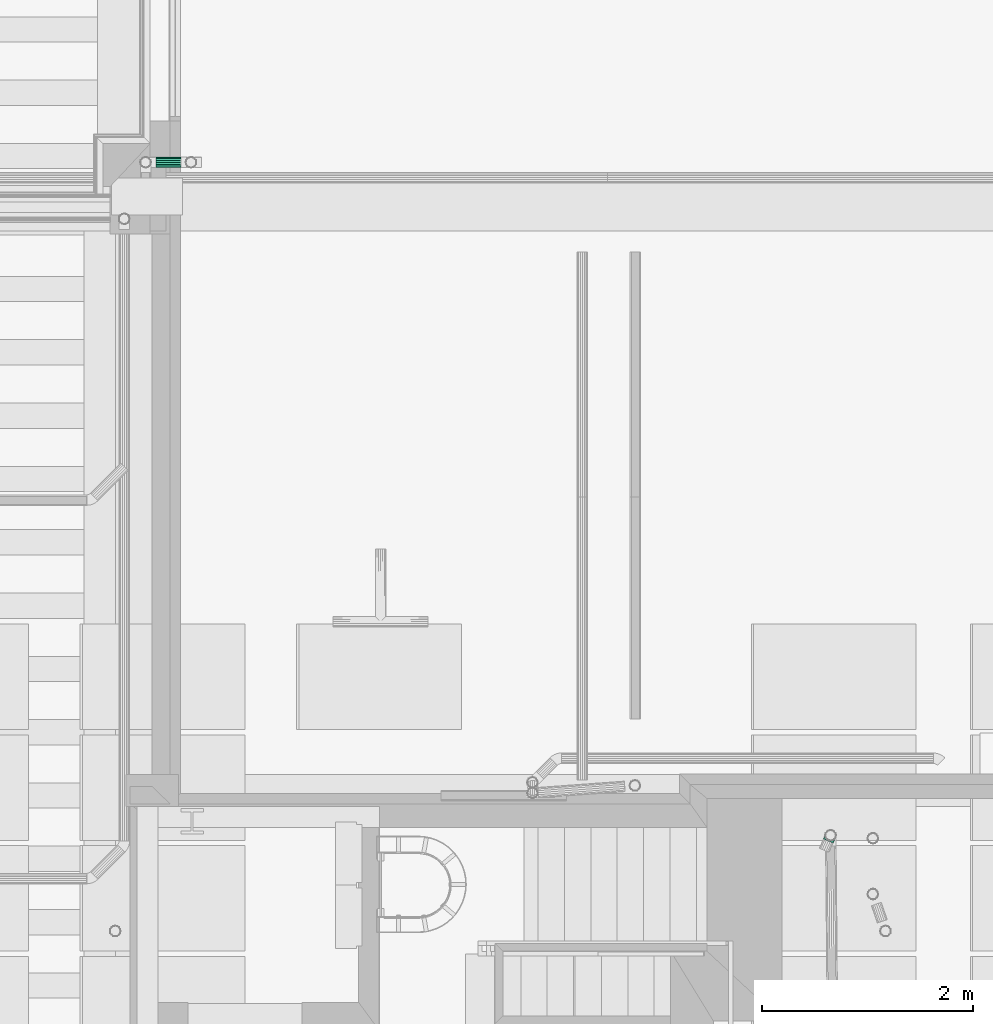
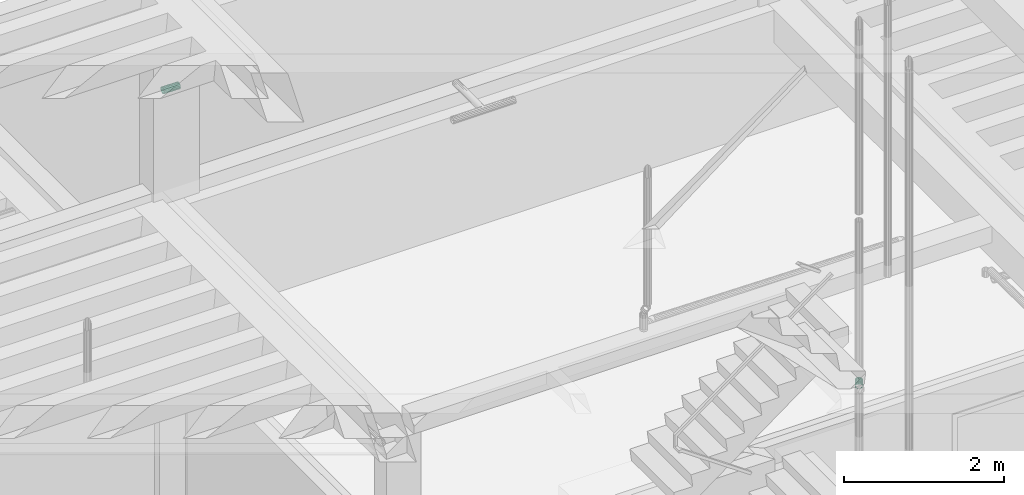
# One storey, part 89 of 108: 1 flow fitting, 1 flow segment.
"""IFC2X3 building model written with IfcOpenShell, lengths in metres."""

from ifc_helpers import new_model, entity, si_unit, converted_unit, derived_unit, money_unit, direction, frame, origin_with_axes, place, context, subcontext, project, spatial, open_shell, faceted_brep, surface_model, material, type_object, element, save


model = new_model("IFC2X3")

# Units and contexts
model_context = context("Model", 3, precision=1e-05, world=origin_with_axes(), true_north=direction((0.0, 1.0)))
body_context = subcontext(model_context, "Body", "Model", "MODEL_VIEW", scale=1.0)
ifc_project = project(units=[si_unit("LENGTHUNIT", "METRE"), si_unit("AREAUNIT", "SQUARE_METRE"), si_unit("VOLUMEUNIT", "CUBIC_METRE"), si_unit("ABSORBEDDOSEUNIT", "GRAY"), si_unit("AMOUNTOFSUBSTANCEUNIT", "MOLE"), si_unit("DOSEEQUIVALENTUNIT", "SIEVERT"), si_unit("ELECTRICCAPACITANCEUNIT", "FARAD"), si_unit("ELECTRICCHARGEUNIT", "COULOMB"), si_unit("ELECTRICCONDUCTANCEUNIT", "SIEMENS"), si_unit("ELECTRICCURRENTUNIT", "AMPERE"), si_unit("ELECTRICRESISTANCEUNIT", "OHM"), si_unit("ELECTRICVOLTAGEUNIT", "VOLT"), si_unit("ENERGYUNIT", "JOULE"), si_unit("FORCEUNIT", "NEWTON"), si_unit("FREQUENCYUNIT", "HERTZ"), si_unit("ILLUMINANCEUNIT", "LUX"), si_unit("INDUCTANCEUNIT", "HENRY"), si_unit("LUMINOUSFLUXUNIT", "LUMEN"), si_unit("LUMINOUSINTENSITYUNIT", "CANDELA"), si_unit("MAGNETICFLUXDENSITYUNIT", "TESLA"), si_unit("MAGNETICFLUXUNIT", "WEBER"), si_unit("MASSUNIT", "GRAM"), converted_unit("PLANEANGLEUNIT", "degree", entity("IfcReal", 0.0174532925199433), si_unit("PLANEANGLEUNIT", "RADIAN"), dimensions=[0, 0, 0, 0, 0, 0, 0]), si_unit("POWERUNIT", "WATT"), si_unit("PRESSUREUNIT", "PASCAL"), si_unit("RADIOACTIVITYUNIT", "BECQUEREL"), si_unit("SOLIDANGLEUNIT", "STERADIAN"), si_unit("THERMODYNAMICTEMPERATUREUNIT", "KELVIN"), si_unit("TIMEUNIT", "SECOND"), derived_unit("ACCELERATIONUNIT", [(si_unit("LENGTHUNIT", "METRE"), 1), (si_unit("TIMEUNIT", "SECOND"), -2)]), derived_unit("ANGULARVELOCITYUNIT", [(converted_unit("PLANEANGLEUNIT", "degree", entity("IfcReal", 0.0174532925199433), si_unit("PLANEANGLEUNIT", "RADIAN"), dimensions=[0, 0, 0, 0, 0, 0, 0]), 1), (si_unit("TIMEUNIT", "SECOND"), -1)]), derived_unit("CURVATUREUNIT", [(converted_unit("PLANEANGLEUNIT", "degree", entity("IfcReal", 0.0174532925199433), si_unit("PLANEANGLEUNIT", "RADIAN"), dimensions=[0, 0, 0, 0, 0, 0, 0]), 1), (si_unit("LENGTHUNIT", "METRE"), -1)]), derived_unit("DYNAMICVISCOSITYUNIT", [(si_unit("PRESSUREUNIT", "PASCAL"), 1), (si_unit("TIMEUNIT", "SECOND"), 1)]), derived_unit("HEATFLUXDENSITYUNIT", [(si_unit("POWERUNIT", "WATT"), 1), (si_unit("LENGTHUNIT", "METRE"), -2)]), derived_unit("HEATINGVALUEUNIT", [(si_unit("ENERGYUNIT", "JOULE"), 1), (si_unit("MASSUNIT", "GRAM"), -1)]), derived_unit("INTEGERCOUNTRATEUNIT", [(si_unit("TIMEUNIT", "SECOND"), -1)]), derived_unit("IONCONCENTRATIONUNIT", [(si_unit("MASSUNIT", "GRAM"), 1), (si_unit("VOLUMEUNIT", "CUBIC_METRE"), -1)]), derived_unit("ISOTHERMALMOISTURECAPACITYUNIT", [(si_unit("VOLUMEUNIT", "CUBIC_METRE"), 1), (si_unit("MASSUNIT", "GRAM"), -1)]), derived_unit("KINEMATICVISCOSITYUNIT", [(si_unit("AREAUNIT", "SQUARE_METRE"), 1), (si_unit("TIMEUNIT", "SECOND"), -1)]), derived_unit("LINEARFORCEUNIT", [(si_unit("FORCEUNIT", "NEWTON"), 1), (si_unit("LENGTHUNIT", "METRE"), -1)]), derived_unit("LINEARMOMENTUNIT", [(si_unit("FORCEUNIT", "NEWTON"), 1), (si_unit("LENGTHUNIT", "METRE"), -1)]), derived_unit("LINEARSTIFFNESSUNIT", [(si_unit("FORCEUNIT", "NEWTON"), 1), (si_unit("LENGTHUNIT", "METRE"), -1)]), derived_unit("LINEARVELOCITYUNIT", [(si_unit("LENGTHUNIT", "METRE"), 1), (si_unit("TIMEUNIT", "SECOND"), -1)]), derived_unit("LUMINOUSINTENSITYDISTRIBUTIONUNIT", [(si_unit("LUMINOUSINTENSITYUNIT", "CANDELA"), 1), (si_unit("LUMINOUSFLUXUNIT", "LUMEN"), -1)]), derived_unit("MASSDENSITYUNIT", [(si_unit("MASSUNIT", "GRAM"), 1), (si_unit("VOLUMEUNIT", "CUBIC_METRE"), -1)]), derived_unit("MASSFLOWRATEUNIT", [(si_unit("MASSUNIT", "GRAM"), 1), (si_unit("TIMEUNIT", "SECOND"), -1)]), derived_unit("MASSPERLENGTHUNIT", [(si_unit("MASSUNIT", "GRAM"), 1), (si_unit("LENGTHUNIT", "METRE"), -1)]), derived_unit("MODULUSOFELASTICITYUNIT", [(si_unit("FORCEUNIT", "NEWTON"), 1), (si_unit("AREAUNIT", "SQUARE_METRE"), -1)]), derived_unit("MODULUSOFLINEARSUBGRADEREACTIONUNIT", [(si_unit("FORCEUNIT", "NEWTON"), 1), (si_unit("LENGTHUNIT", "METRE"), -2)]), derived_unit("MODULUSOFROTATIONALSUBGRADEREACTIONUNIT", [(si_unit("FORCEUNIT", "NEWTON"), 1), (si_unit("LENGTHUNIT", "METRE"), 1)]), derived_unit("MODULUSOFSUBGRADEREACTIONUNIT", [(si_unit("FORCEUNIT", "NEWTON"), 1), (si_unit("VOLUMEUNIT", "CUBIC_METRE"), -1)]), derived_unit("MOISTUREDIFFUSIVITYUNIT", [(si_unit("VOLUMEUNIT", "CUBIC_METRE"), 1), (si_unit("TIMEUNIT", "SECOND"), -1)]), derived_unit("MOLECULARWEIGHTUNIT", [(si_unit("MASSUNIT", "GRAM"), 1), (si_unit("AMOUNTOFSUBSTANCEUNIT", "MOLE"), -1)]), derived_unit("PLANARFORCEUNIT", [(si_unit("FORCEUNIT", "NEWTON"), 1), (si_unit("LENGTHUNIT", "METRE"), -2)]), derived_unit("ROTATIONALFREQUENCYUNIT", [(si_unit("TIMEUNIT", "SECOND"), -1)]), derived_unit("ROTATIONALMASSUNIT", [(si_unit("MASSUNIT", "GRAM"), 1), (si_unit("LENGTHUNIT", "METRE"), 2)]), derived_unit("ROTATIONALSTIFFNESSUNIT", [(si_unit("FORCEUNIT", "NEWTON"), 1), (si_unit("LENGTHUNIT", "METRE"), 1), (converted_unit("PLANEANGLEUNIT", "degree", entity("IfcReal", 0.0174532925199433), si_unit("PLANEANGLEUNIT", "RADIAN"), dimensions=[0, 0, 0, 0, 0, 0, 0]), -1)]), derived_unit("SECTIONAREAINTEGRALUNIT", [(si_unit("LENGTHUNIT", "METRE"), 5)]), derived_unit("SECTIONMODULUSUNIT", [(si_unit("LENGTHUNIT", "METRE"), 3)]), derived_unit("SHEARMODULUSUNIT", [(si_unit("FORCEUNIT", "NEWTON"), 1), (si_unit("AREAUNIT", "SQUARE_METRE"), -1)]), derived_unit("SOUNDPOWERUNIT", [(si_unit("ENERGYUNIT", "JOULE"), 1), (si_unit("TIMEUNIT", "SECOND"), -1)]), derived_unit("SPECIFICHEATCAPACITYUNIT", [(si_unit("FORCEUNIT", "NEWTON"), 1), (si_unit("MASSUNIT", "GRAM"), -1), (si_unit("THERMODYNAMICTEMPERATUREUNIT", "KELVIN"), -1)]), derived_unit("TEMPERATUREGRADIENTUNIT", [(si_unit("THERMODYNAMICTEMPERATUREUNIT", "KELVIN"), 1), (si_unit("LENGTHUNIT", "METRE"), -1)]), derived_unit("THERMALADMITTANCEUNIT", [(si_unit("POWERUNIT", "WATT"), 1), (si_unit("AREAUNIT", "SQUARE_METRE"), -1), (si_unit("THERMODYNAMICTEMPERATUREUNIT", "KELVIN"), -1)]), derived_unit("THERMALCONDUCTANCEUNIT", [(si_unit("POWERUNIT", "WATT"), 1), (si_unit("LENGTHUNIT", "METRE"), -1), (si_unit("THERMODYNAMICTEMPERATUREUNIT", "KELVIN"), -1)]), derived_unit("THERMALEXPANSIONCOEFFICIENTUNIT", [(si_unit("THERMODYNAMICTEMPERATUREUNIT", "KELVIN"), -1)]), derived_unit("THERMALRESISTANCEUNIT", [(si_unit("AREAUNIT", "SQUARE_METRE"), 1), (si_unit("POWERUNIT", "WATT"), -1)]), derived_unit("THERMALTRANSMITTANCEUNIT", [(si_unit("POWERUNIT", "WATT"), 1), (si_unit("AREAUNIT", "SQUARE_METRE"), -1), (si_unit("THERMODYNAMICTEMPERATUREUNIT", "KELVIN"), -1)]), derived_unit("TORQUEUNIT", [(si_unit("FORCEUNIT", "NEWTON"), 1), (si_unit("LENGTHUNIT", "METRE"), 1)]), derived_unit("VAPORPERMEABILITYUNIT", [(si_unit("MASSUNIT", "GRAM"), 1), (si_unit("TIMEUNIT", "SECOND"), -1)]), derived_unit("VOLUMETRICFLOWRATEUNIT", [(si_unit("VOLUMEUNIT", "CUBIC_METRE"), 1), (si_unit("TIMEUNIT", "SECOND"), -1)]), derived_unit("WARPINGCONSTANTUNIT", [(si_unit("LENGTHUNIT", "METRE"), 6)]), derived_unit("WARPINGMOMENTUNIT", [(si_unit("FORCEUNIT", "NEWTON"), 1), (si_unit("LENGTHUNIT", "METRE"), 2)]), money_unit("GBP")], contexts=[model_context])

# Site, building, storey
site_placement = place(None, origin_with_axes())
site = spatial("IfcSite", under=ifc_project, at=site_placement, Name="Site", CompositionType="ELEMENT")
building_placement = place(site_placement, origin_with_axes())
building = spatial("IfcBuilding", under=site, at=building_placement, Name="Building01", CompositionType="ELEMENT")
storey_placement = place(building_placement, origin_with_axes())
storey = spatial("IfcBuildingStorey", under=building, at=storey_placement, Name="GF", CompositionType="ELEMENT", Elevation=0.0)

# Flow segment
ifc_material = material(Name="M_BSUK_ColdWater")
pipe_segment_type = type_object("IfcPipeSegmentType", Name="M-BmpStraightpipe-DefaultPipe", PredefinedType="RIGIDSEGMENT")
flow_segment_placement = place(storey_placement, frame((9.210744, 14.95, 6.24673), z_axis=(0.0, 1.0, 0.0), x_axis=(0.99980004, 0.0, -0.01999682)))
element("IfcFlowSegment", 1, at=flow_segment_placement, inside=storey, type_object=pipe_segment_type, material=ifc_material, Name="M-BmpStraightpipe-DefaultPipe", ObjectType="M-BmpStraightpipe-DefaultPipe", context=body_context, shape_type="Brep", body=[
    faceted_brep([(0.234392, 0.0, -0.05), (0.0, 0.0, -0.05), (0.0, 0.019134, -0.046194), (0.234392, 0.019134, -0.046194), (0.0, 0.035355, -0.035355), (0.234392, 0.035355, -0.035355), (0.0, 0.046194, -0.019134), (0.234392, 0.046194, -0.019134), (0.0, 0.05, 0.0), (0.234392, 0.05, 0.0), (0.0, 0.046194, 0.019134), (0.234392, 0.046194, 0.019134), (0.0, 0.035355, 0.035355), (0.234392, 0.035355, 0.035355), (0.0, 0.019134, 0.046194), (0.234392, 0.019134, 0.046194), (0.0, 0.0, 0.05), (0.234392, 0.0, 0.05), (0.0, -0.019134, 0.046194), (0.234392, -0.019134, 0.046194), (0.0, -0.035355, 0.035355), (0.234392, -0.035355, 0.035355), (0.0, -0.046194, 0.019134), (0.234392, -0.046194, 0.019134), (0.0, -0.05, 0.0), (0.234392, -0.05, 0.0), (0.0, -0.046194, -0.019134), (0.234392, -0.046194, -0.019134), (0.0, -0.035355, -0.035355), (0.234392, -0.035355, -0.035355), (0.0, -0.019134, -0.046194), (0.234392, -0.019134, -0.046194)], [[[0, 1, 2, 3]], [[3, 2, 4, 5]], [[5, 4, 6, 7]], [[7, 6, 8, 9]], [[9, 8, 10, 11]], [[11, 10, 12, 13]], [[13, 12, 14, 15]], [[15, 14, 16, 17]], [[17, 16, 18, 19]], [[19, 18, 20, 21]], [[21, 20, 22, 23]], [[23, 22, 24, 25]], [[25, 24, 26, 27]], [[27, 26, 28, 29]], [[29, 28, 30, 31]], [[31, 30, 1, 0]]]),
])

# Space
space_placement = place(storey_placement, frame((9.419099, 6.725761, 0.0), z_axis=(0.0, 0.0, 1.0), x_axis=(0.0, -1.0, 0.0)))
space = spatial("IfcSpace", under=storey, at=space_placement, Name="ENTRANCE", CompositionType="ELEMENT", InteriorOrExteriorSpace="NOTDEFINED")

# Flow fitting
pipe_fitting_type = type_object("IfcPipeFittingType", Name="M-BmpTee-DefaultTee", PredefinedType="JUNCTION")
flow_fitting_placement = place(storey_placement, frame((15.604265, 8.57241, 3.349919), z_axis=(0.39563745, 0.91840678, 0.0), x_axis=(0.0, 0.0, 1.0)))
element("IfcFlowFitting", 2, at=flow_fitting_placement, inside=space, type_object=pipe_fitting_type, material=ifc_material, Name="M-BmpTee-DefaultTee", ObjectType="M-BmpTee-DefaultTee", context=body_context, shape_type="SurfaceModel", body=[
    surface_model("IfcShellBasedSurfaceModel", [(0.068757, 0.046194, -0.019134), (0.06921, 0.046194, -0.055386), (0.050077, 0.05, -0.055626), (0.085182, 0.035355, -0.035355), (0.08543, 0.035355, -0.055184), (0.096157, 0.019134, -0.046194), (0.096268, 0.019134, -0.055048), (0.099038, 0.009755, -0.049039), (0.100011, 0.0, -0.05), (0.100073, 0.0, -0.055001), (0.099038, -0.009755, -0.049039), (0.096157, -0.019134, -0.046194), (0.096268, -0.019134, -0.055048), (0.091478, -0.027779, -0.041573), (0.085182, -0.035355, -0.035355), (0.08543, -0.035355, -0.055184), (0.07751, -0.041573, -0.027779), (0.068757, -0.046194, -0.019134), (0.06921, -0.046194, -0.055386), (0.059259, -0.049039, -0.009755), (0.049382, -0.05, 0.0), (0.050077, -0.05, -0.055626), (0.030485, -0.046194, -0.019134), (0.030945, -0.046194, -0.055865), (0.014466, -0.035355, -0.035355), (0.014725, -0.035355, -0.056067), (0.003762, -0.019134, -0.046194), (0.003887, -0.019134, -0.056203), (0.000952, -0.009755, -0.049039), (3e-06, 0.0, -0.05), (8.1e-05, 0.0, -0.056251), (0.000952, 0.009755, -0.049039), (0.003762, 0.019134, -0.046194), (0.003887, 0.019134, -0.056203), (0.008325, 0.027779, -0.041573), (0.014466, 0.035355, -0.035355), (0.014725, 0.035355, -0.056067), (0.021948, 0.041573, -0.027779), (0.030485, 0.046194, -0.019134), (0.030945, 0.046194, -0.055865), (0.039749, 0.049039, -0.009755), (0.049382, 0.05, 0.0), (0.008325, -0.027779, -0.041573), (0.021948, -0.041573, -0.027779), (0.039749, -0.049039, -0.009755), (0.091478, 0.027779, -0.041573), (0.07751, 0.041573, -0.027779), (0.059259, 0.049039, -0.009755), (-0.005, -0.05, 0.0), (0.105012, -0.05, 0.0), (0.105012, -0.046194, 0.019134), (-0.005, -0.046194, 0.019134), (0.105012, -0.035355, 0.035355), (-0.005, -0.035355, 0.035355), (0.105012, -0.019134, 0.046194), (-0.005, -0.019134, 0.046194), (0.105012, 0.0, 0.05), (-0.005, 0.0, 0.05), (0.105012, 0.019134, 0.046194), (-0.005, 0.019134, 0.046194), (0.105012, 0.035355, 0.035355), (-0.005, 0.035355, 0.035355), (0.105012, 0.046194, 0.019134), (-0.005, 0.046194, 0.019134), (0.105012, 0.05, 0.0), (-0.005, 0.05, 0.0), (0.105012, -0.046194, -0.019134), (0.105012, -0.035355, -0.035355), (0.105012, -0.019134, -0.046194), (0.105012, 0.0, -0.05), (0.105012, 0.019134, -0.046194), (0.105012, 0.035355, -0.035355), (0.105012, 0.046194, -0.019134), (-0.005, 0.046194, -0.019134), (-0.005, 0.035355, -0.035355), (-0.005, 0.019134, -0.046194), (-0.005, 0.0, -0.05), (-0.005, -0.019134, -0.046194), (-0.005, -0.035355, -0.035355), (-0.005, -0.046194, -0.019134)], [open_shell([[[0, 1, 2]], [[3, 4, 1]], [[5, 6, 4]], [[7, 8, 9]], [[10, 11, 12]], [[13, 14, 15]], [[16, 17, 18]], [[19, 20, 21]], [[22, 23, 21]], [[24, 25, 23]], [[26, 27, 25]], [[28, 29, 30]], [[31, 32, 33]], [[34, 35, 36]], [[37, 38, 39]], [[40, 41, 2]], [[38, 40, 2]], [[2, 39, 38]], [[35, 37, 39]], [[39, 36, 35]], [[32, 34, 36]], [[36, 33, 32]], [[31, 33, 30]], [[30, 29, 31]], [[27, 26, 28]], [[30, 27, 28]], [[25, 24, 42]], [[25, 42, 26]], [[23, 22, 43]], [[23, 43, 24]], [[21, 20, 44]], [[21, 44, 22]], [[17, 19, 21]], [[21, 18, 17]], [[14, 16, 18]], [[18, 15, 14]], [[11, 13, 15]], [[15, 12, 11]], [[10, 12, 9]], [[9, 8, 10]], [[6, 5, 7]], [[9, 6, 7]], [[4, 3, 45]], [[4, 45, 5]], [[1, 0, 46]], [[1, 46, 3]], [[2, 41, 47]], [[2, 47, 0]], [[48, 20, 49, 50, 51]], [[51, 50, 52, 53]], [[53, 52, 54, 55]], [[55, 54, 56, 57]], [[57, 56, 58, 59]], [[59, 58, 60, 61]], [[61, 60, 62, 63]], [[63, 62, 64, 41, 65]], [[17, 66, 49]], [[14, 67, 66]], [[11, 68, 67]], [[10, 8, 69]], [[7, 5, 70]], [[45, 3, 71]], [[46, 0, 72]], [[47, 41, 64]], [[38, 73, 65]], [[35, 74, 73]], [[32, 75, 74]], [[31, 29, 76]], [[28, 26, 77]], [[42, 24, 78]], [[43, 22, 79]], [[44, 20, 48]], [[22, 44, 48]], [[48, 79, 22]], [[24, 43, 79]], [[79, 78, 24]], [[26, 42, 78]], [[78, 77, 26]], [[28, 77, 76]], [[76, 29, 28]], [[75, 32, 31]], [[76, 75, 31]], [[74, 35, 34]], [[74, 34, 32]], [[73, 38, 37]], [[73, 37, 35]], [[65, 41, 40]], [[65, 40, 38]], [[0, 47, 64]], [[64, 72, 0]], [[3, 46, 72]], [[72, 71, 3]], [[5, 45, 71]], [[71, 70, 5]], [[7, 70, 69]], [[69, 8, 7]], [[68, 11, 10]], [[69, 68, 10]], [[67, 14, 13]], [[67, 13, 11]], [[66, 17, 16]], [[66, 16, 14]], [[49, 20, 19]], [[49, 19, 17]]])]),
])

save(model, "model.ifc")
